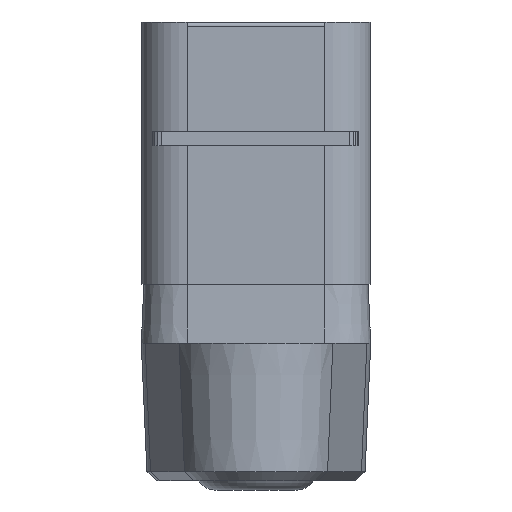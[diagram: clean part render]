
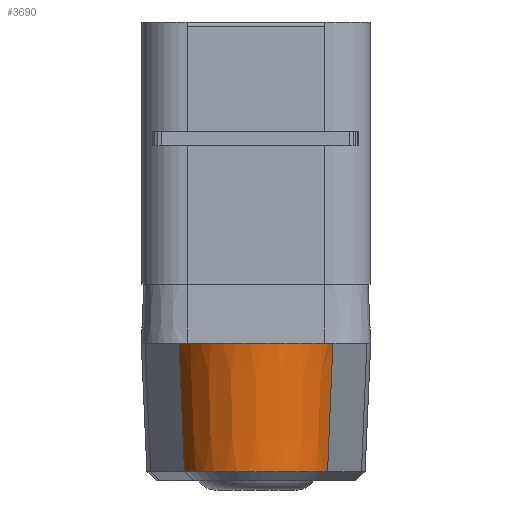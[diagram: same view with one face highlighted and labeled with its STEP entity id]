
A CAD part, left-side view. The second image highlights one B-rep face of the part: STEP entity #3690.
In plain terms, the highlighted conical face has half-angle 2.5 degrees and reference radius 1.685 mm.
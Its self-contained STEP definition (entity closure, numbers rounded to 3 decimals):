
#243=LINE('',#7552,#492);
#245=LINE('',#7556,#494);
#492=VECTOR('',#4798,10.);
#494=VECTOR('',#4802,10.);
#782=CONICAL_SURFACE('',#4063,1.685,0.044);
#935=FACE_OUTER_BOUND('',#1179,.T.);
#1179=EDGE_LOOP('',(#2966,#2967,#2968,#2969));
#1425=CIRCLE('',#4056,1.628);
#1428=CIRCLE('',#4064,1.75);
#1690=VERTEX_POINT('',#7531);
#1691=VERTEX_POINT('',#7535);
#1695=VERTEX_POINT('',#7551);
#1696=VERTEX_POINT('',#7555);
#2147=EDGE_CURVE('',#1691,#1690,#1425,.T.);
#2154=EDGE_CURVE('',#1695,#1690,#243,.T.);
#2156=EDGE_CURVE('',#1696,#1691,#245,.T.);
#2157=EDGE_CURVE('',#1696,#1695,#1428,.F.);
#2966=ORIENTED_EDGE('',*,*,#2147,.F.);
#2967=ORIENTED_EDGE('',*,*,#2156,.F.);
#2968=ORIENTED_EDGE('',*,*,#2157,.T.);
#2969=ORIENTED_EDGE('',*,*,#2154,.T.);
#3690=ADVANCED_FACE('',(#935),#782,.T.);
#4056=AXIS2_PLACEMENT_3D('',#7537,#4780,#4781);
#4063=AXIS2_PLACEMENT_3D('',#7554,#4800,#4801);
#4064=AXIS2_PLACEMENT_3D('',#7557,#4803,#4804);
#4780=DIRECTION('center_axis',(0.,0.,-1.));
#4781=DIRECTION('ref_axis',(-1.,0.,0.));
#4798=DIRECTION('',(0.013,-0.042,-0.999));
#4800=DIRECTION('center_axis',(0.,0.,1.));
#4801=DIRECTION('ref_axis',(-1.,0.,0.));
#4802=DIRECTION('',(0.013,0.042,-0.999));
#4803=DIRECTION('center_axis',(0.,0.,1.));
#4804=DIRECTION('ref_axis',(1.,0.,0.));
#7531=CARTESIAN_POINT('',(-8.717,1.559,-0.6));
#7535=CARTESIAN_POINT('',(-8.717,-1.559,-0.6));
#7537=CARTESIAN_POINT('Origin',(-8.25,0.,-0.6));
#7551=CARTESIAN_POINT('',(-8.752,1.677,2.2));
#7552=CARTESIAN_POINT('',(-8.752,1.677,2.2));
#7554=CARTESIAN_POINT('Origin',(-8.25,0.,0.7));
#7555=CARTESIAN_POINT('',(-8.752,-1.677,2.2));
#7556=CARTESIAN_POINT('',(-8.752,-1.677,2.2));
#7557=CARTESIAN_POINT('Origin',(-8.25,0.,2.2));
